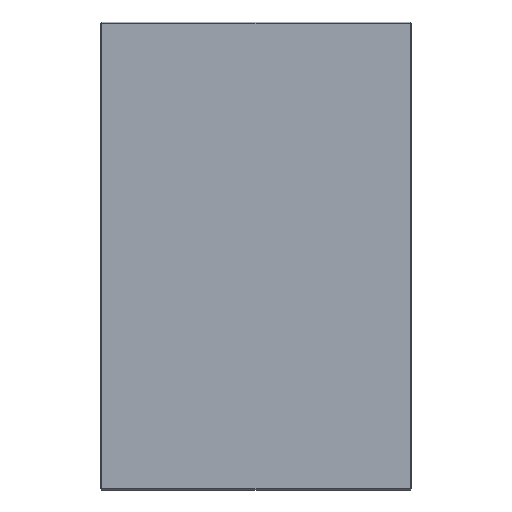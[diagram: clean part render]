
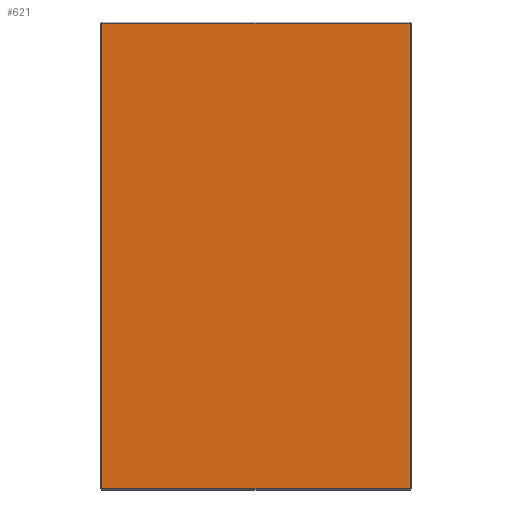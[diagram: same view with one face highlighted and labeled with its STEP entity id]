
A CAD part, front view. The second image highlights one B-rep face of the part: STEP entity #621.
In plain terms, the highlighted planar face has unit normal (0, -1, 0).
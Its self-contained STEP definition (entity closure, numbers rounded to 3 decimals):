
#21 = ORIENTED_EDGE ( 'NONE', *, *, #45, .T. ) ;
#30 = DIRECTION ( 'NONE',  ( 0., 0., 1. ) ) ;
#45 = EDGE_CURVE ( 'NONE', #459, #210, #67, .T. ) ;
#53 = EDGE_CURVE ( 'NONE', #284, #481, #479, .T. ) ;
#67 = LINE ( 'NONE', #590, #433 ) ;
#81 = ORIENTED_EDGE ( 'NONE', *, *, #53, .T. ) ;
#187 = CARTESIAN_POINT ( 'NONE',  ( 147., 0., -222. ) ) ;
#189 = AXIS2_PLACEMENT_3D ( 'NONE', #576, #523, #529 ) ;
#210 = VERTEX_POINT ( 'NONE', #187 ) ;
#228 = EDGE_LOOP ( 'NONE', ( #527, #81, #472, #21 ) ) ;
#263 = DIRECTION ( 'NONE',  ( 0., 0., -1. ) ) ;
#284 = VERTEX_POINT ( 'NONE', #611 ) ;
#306 = CARTESIAN_POINT ( 'NONE',  ( -147., 0., 0. ) ) ;
#327 = EDGE_CURVE ( 'NONE', #210, #284, #608, .T. ) ;
#340 = CARTESIAN_POINT ( 'NONE',  ( 147., 0., 0. ) ) ;
#360 = VECTOR ( 'NONE', #263, 1000. ) ;
#407 = CARTESIAN_POINT ( 'NONE',  ( -147., 0., 222. ) ) ;
#433 = VECTOR ( 'NONE', #613, 1000. ) ;
#459 = VERTEX_POINT ( 'NONE', #633 ) ;
#467 = FACE_OUTER_BOUND ( 'NONE', #228, .T. ) ;
#472 = ORIENTED_EDGE ( 'NONE', *, *, #522, .T. ) ;
#479 = LINE ( 'NONE', #600, #480 ) ;
#480 = VECTOR ( 'NONE', #509, 1000. ) ;
#481 = VERTEX_POINT ( 'NONE', #407 ) ;
#509 = DIRECTION ( 'NONE',  ( -1., 0., 0. ) ) ;
#513 = PLANE ( 'NONE',  #189 ) ;
#522 = EDGE_CURVE ( 'NONE', #481, #459, #586, .T. ) ;
#523 = DIRECTION ( 'NONE',  ( 0., 1., 0. ) ) ;
#527 = ORIENTED_EDGE ( 'NONE', *, *, #327, .T. ) ;
#529 = DIRECTION ( 'NONE',  ( 0., 0., 1. ) ) ;
#576 = CARTESIAN_POINT ( 'NONE',  ( 0., 0., 0. ) ) ;
#586 = LINE ( 'NONE', #306, #360 ) ;
#590 = CARTESIAN_POINT ( 'NONE',  ( 0., 0., -222. ) ) ;
#600 = CARTESIAN_POINT ( 'NONE',  ( 0., 0., 222. ) ) ;
#608 = LINE ( 'NONE', #340, #635 ) ;
#611 = CARTESIAN_POINT ( 'NONE',  ( 147., 0., 222. ) ) ;
#613 = DIRECTION ( 'NONE',  ( 1., 0., 0. ) ) ;
#621 = ADVANCED_FACE ( 'NONE', ( #467 ), #513, .F. ) ;
#633 = CARTESIAN_POINT ( 'NONE',  ( -147., 0., -222. ) ) ;
#635 = VECTOR ( 'NONE', #30, 1000. ) ;
